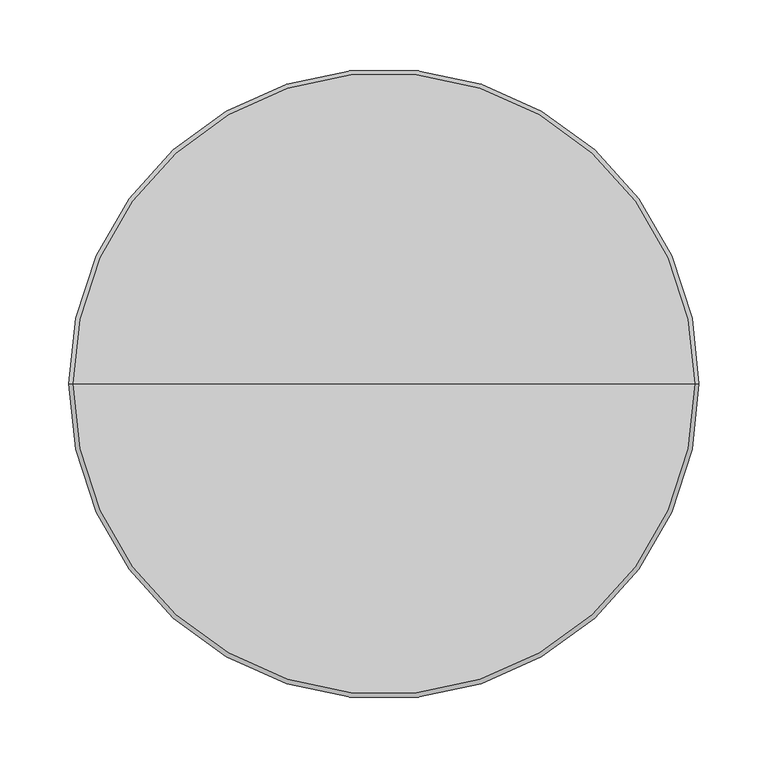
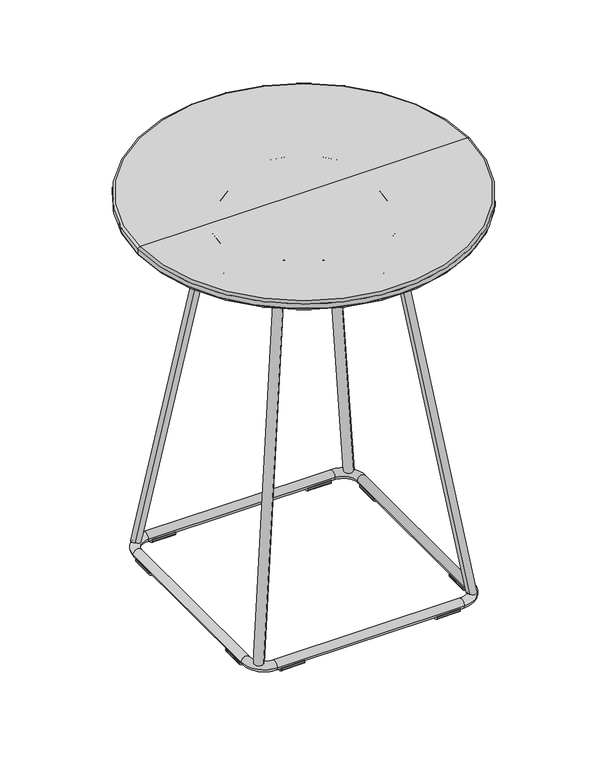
"""IFC4 building model written with IfcOpenShell, lengths in millimetres: furniture geometry, Stance_HC-Tully-Round_Table : TUTF18R22-S."""

from ifc_helpers import new_model, si_unit, point, frame, frame_2d, origin, place, context, project, spatial, polyline, circle_curve, ellipse_curve, trimmed, segment, composite_curve, outline, extrude, source, transform, mapped, element, save
from ifc_brep_helpers import plane_surface, cylinder_surface, revolved_surface, extruded_surface, advanced_brep


def furniture_40e74869(model_context):
    return source(origin(), model_context, "Body", "SolidModel", [
        advanced_brep(
        [(-163.5125, 0.0, 533.4), (163.5125, 0.0, 533.4), (0.0, 0.0, 533.4), (-165.1078573, 0.0, 534.9953573), (165.1078573, 0.0, 534.9953573), (-165.1078573, 0.0, 546.1), (165.1078573, 0.0, 546.1), (0.0, 0.0, 546.1)],
        [
            (0, 1, circle_curve(frame((0.0, 0.0, 533.4), z_axis=(0.0, 0.0, -1.0), x_axis=(1.0, 0.0, 0.0)), 163.5125)),
            (1, 2),
            (2, 0),
            (1, 0, circle_curve(frame((0.0, 0.0, 533.4), z_axis=(0.0, 0.0, -1.0), x_axis=(1.0, 0.0, 0.0)), 163.5125)),
            (3, 4, circle_curve(frame((0.0, 0.0, 534.9953573), z_axis=(0.0, 0.0, -1.0), x_axis=(1.0, 0.0, 0.0)), 165.1078573)),
            (4, 1, circle_curve(frame((163.5125, 0.0, 534.9953573), z_axis=(0.0, 1.0, 0.0), x_axis=(1.0, 0.0, 0.0)), 1.5953573)),
            (0, 3, circle_curve(frame((-163.5125, 0.0, 534.9953573), z_axis=(0.0, 1.0, 0.0), x_axis=(-1.0, 0.0, 0.0)), 1.5953573)),
            (4, 3, circle_curve(frame((0.0, 0.0, 534.9953573), z_axis=(0.0, 0.0, -1.0), x_axis=(1.0, 0.0, 0.0)), 165.1078573)),
            (5, 6, circle_curve(frame((0.0, 0.0, 546.1), z_axis=(0.0, 0.0, -1.0), x_axis=(1.0, 0.0, 0.0)), 165.1078573)),
            (6, 4),
            (3, 5),
            (6, 5, circle_curve(frame((0.0, 0.0, 546.1), z_axis=(0.0, 0.0, -1.0), x_axis=(1.0, 0.0, 0.0)), 165.1078573)),
            (7, 6),
            (5, 7),
        ],
        [
            plane_surface(frame((0.0, 0.0, 533.4), z_axis=(0.0, 0.0, -1.0), x_axis=(1.0, 0.0, 0.0))),
            revolved_surface(trimmed(ellipse_curve(frame((163.5125, 0.0, 534.9953573), z_axis=(0.0, -1.0, 0.0), x_axis=(1.0, 0.0, 0.0)), 1.5953573, 1.5953573), [point((163.5125, 0.0, 533.4))], [point((165.1078573, 0.0, 534.9953573))], True, "CARTESIAN"), (0.0, 0.0, 603.8718071), (0.0, 0.0, 1.0)),
            cylinder_surface(frame((0.0, 0.0, 603.8718071), z_axis=(0.0, 0.0, 1.0), x_axis=(1.0, 0.0, 0.0)), 165.1078573),
            plane_surface(frame((0.0, 0.0, 546.1), z_axis=(0.0, 0.0, 1.0), x_axis=(1.0, 0.0, 0.0))),
        ],
        [
            (0, [[1, 2, 3]]),
            (0, [[4, -3, -2]]),
            (1, [[5, 6, -1, 7]]),
            (1, [[8, -7, -4, -6]]),
            (2, [[9, 10, -5, 11]]),
            (2, [[12, -11, -8, -10]]),
            (3, [[13, -9, 14]]),
            (3, [[-14, -12, -13]]),
        ],
    ),
        advanced_brep(
        [(-225.425, 0.0, 546.1), (225.425, 0.0, 546.1), (0.0, 0.0, 546.1), (-228.6, 0.0, 555.625), (228.6, 0.0, 555.625), (228.6, 0.0, 549.275), (-228.6, 0.0, 549.275), (0.0, 0.0, 558.8), (225.425, 0.0, 558.8), (-225.425, 0.0, 558.8)],
        [
            (0, 1, circle_curve(frame((0.0, 0.0, 546.1), z_axis=(0.0, 0.0, -1.0), x_axis=(1.0, 0.0, 0.0)), 225.425)),
            (1, 2),
            (2, 0),
            (1, 0, circle_curve(frame((0.0, 0.0, 546.1), z_axis=(0.0, 0.0, -1.0), x_axis=(1.0, 0.0, 0.0)), 225.425)),
            (3, 4, circle_curve(frame((0.0, 0.0, 555.625), z_axis=(0.0, 0.0, -1.0), x_axis=(1.0, 0.0, 0.0)), 228.6)),
            (4, 5),
            (5, 6, circle_curve(frame((0.0, 0.0, 549.275), z_axis=(0.0, 0.0, 1.0), x_axis=(1.0, 0.0, 0.0)), 228.6)),
            (6, 3),
            (4, 3, circle_curve(frame((0.0, 0.0, 555.625), z_axis=(0.0, 0.0, -1.0), x_axis=(1.0, 0.0, 0.0)), 228.6)),
            (6, 5, circle_curve(frame((0.0, 0.0, 549.275), z_axis=(0.0, 0.0, 1.0), x_axis=(1.0, 0.0, 0.0)), 228.6)),
            (7, 8),
            (8, 9, circle_curve(frame((0.0, 0.0, 558.8), z_axis=(0.0, 0.0, 1.0), x_axis=(1.0, 0.0, 0.0)), 225.425)),
            (9, 7),
            (9, 8, circle_curve(frame((0.0, 0.0, 558.8), z_axis=(0.0, 0.0, 1.0), x_axis=(1.0, 0.0, 0.0)), 225.425)),
            (8, 4, circle_curve(frame((225.425, 0.0, 555.625), z_axis=(0.0, 1.0, 0.0), x_axis=(1.0, 0.0, 0.0)), 3.175)),
            (3, 9, circle_curve(frame((-225.425, 0.0, 555.625), z_axis=(0.0, 1.0, 0.0), x_axis=(-1.0, 0.0, 0.0)), 3.175)),
            (5, 1, circle_curve(frame((225.425, 0.0, 549.275), z_axis=(0.0, 1.0, 0.0), x_axis=(1.0, 0.0, 0.0)), 3.175)),
            (0, 6, circle_curve(frame((-225.425, 0.0, 549.275), z_axis=(0.0, 1.0, 0.0), x_axis=(-1.0, 0.0, 0.0)), 3.175)),
        ],
        [
            plane_surface(frame((0.0, 0.0, 546.1), z_axis=(0.0, 0.0, -1.0), x_axis=(1.0, 0.0, 0.0))),
            cylinder_surface(frame((0.0, 0.0, 581.631295), z_axis=(0.0, 0.0, 1.0), x_axis=(1.0, 0.0, 0.0)), 228.6),
            plane_surface(frame((0.0, 0.0, 558.8), z_axis=(0.0, 0.0, 1.0), x_axis=(1.0, 0.0, 0.0))),
            revolved_surface(trimmed(ellipse_curve(frame((225.425, 0.0, 555.625), z_axis=(0.0, -1.0, 0.0), x_axis=(1.0, 0.0, 0.0)), 3.175, 3.175), [point((228.6, 0.0, 555.625))], [point((225.425, 0.0, 558.8))], True, "CARTESIAN"), (0.0, 0.0, 581.631295), (0.0, 0.0, 1.0)),
            revolved_surface(trimmed(ellipse_curve(frame((225.425, 0.0, 549.275), z_axis=(0.0, -1.0, 0.0), x_axis=(1.0, 0.0, 0.0)), 3.175, 3.175), [point((225.425, 0.0, 546.1))], [point((228.6, 0.0, 549.275))], True, "CARTESIAN"), (0.0, 0.0, 581.631295), (0.0, 0.0, 1.0)),
        ],
        [
            (0, [[1, 2, 3]]),
            (0, [[4, -3, -2]]),
            (1, [[5, 6, 7, 8]]),
            (1, [[9, -8, 10, -6]]),
            (2, [[11, 12, 13]]),
            (2, [[-13, 14, -11]]),
            (3, [[-12, 15, -5, 16]]),
            (3, [[-14, -16, -9, -15]]),
            (4, [[-7, 17, -1, 18]]),
            (4, [[-10, -18, -4, -17]]),
        ],
    ),
        extrude(outline(composite_curve([segment(trimmed(circle_curve(frame_2d((-148.4350817, 5.3337234)), 0.3897203), [point((-148.7664819, 5.5387985))], [point((-148.0454207, 5.3269218))], False, "CARTESIAN"), True, "CONTINUOUS"), segment(polyline([(-148.0454207, 5.3269218), (-148.0841502, 3.1081125)]), True, "CONTINUOUS"), segment(trimmed(circle_curve(frame_2d((-149.6824444, 3.1360109)), 1.5985377), [point((-148.0841502, 3.1081125))], [point((-148.7010134, 1.8742201))], False, "CARTESIAN"), True, "CONTINUOUS"), segment(trimmed(circle_curve(frame_2d((-154.1650784, 8.8991729)), 8.8997735), [point((-148.7010134, 1.8742201))], [point((-159.6514035, 1.891591))], False, "CARTESIAN"), True, "CONTINUOUS"), segment(trimmed(circle_curve(frame_2d((-158.6952511, 3.1128668)), 1.5510454), [point((-159.6514035, 1.891591))], [point((-160.2460603, 3.0857973))], False, "CARTESIAN"), True, "CONTINUOUS"), segment(polyline([(-160.2460603, 3.0857973), (-160.2853602, 5.3372874)]), True, "CONTINUOUS"), segment(trimmed(circle_curve(frame_2d((-159.9029827, 5.3439618)), 0.3824358), [point((-160.2853602, 5.3372874))], [point((-159.5775522, 5.5448401))], False, "CARTESIAN"), True, "CONTINUOUS"), segment(trimmed(circle_curve(frame_2d((-154.1701501, 8.882664)), 6.3546098), [point((-159.5775522, 5.5448401))], [point((-148.7664819, 5.5387985))], True, "CARTESIAN"), True, "CONTINUOUS")], self_intersect=False)), frame((-123.2212496, 0.0, 0.0), z_axis=(1.0, 0.0, 0.0), x_axis=(0.0, 1.0, 0.0)), (0.0, 0.0, 1.0), 32.2202589),
        extrude(outline(composite_curve([segment(trimmed(circle_curve(frame_2d((-148.4350817, 5.3337234)), 0.3897203), [point((-148.7664819, 5.5387985))], [point((-148.0454207, 5.3269218))], False, "CARTESIAN"), True, "CONTINUOUS"), segment(polyline([(-148.0454207, 5.3269218), (-148.0841502, 3.1081125)]), True, "CONTINUOUS"), segment(trimmed(circle_curve(frame_2d((-149.6824444, 3.1360109)), 1.5985377), [point((-148.0841502, 3.1081125))], [point((-148.7010134, 1.8742201))], False, "CARTESIAN"), True, "CONTINUOUS"), segment(trimmed(circle_curve(frame_2d((-154.1650784, 8.8991729)), 8.8997735), [point((-148.7010134, 1.8742201))], [point((-159.6514035, 1.891591))], False, "CARTESIAN"), True, "CONTINUOUS"), segment(trimmed(circle_curve(frame_2d((-158.6952511, 3.1128668)), 1.5510454), [point((-159.6514035, 1.891591))], [point((-160.2460603, 3.0857973))], False, "CARTESIAN"), True, "CONTINUOUS"), segment(polyline([(-160.2460603, 3.0857973), (-160.2853602, 5.3372874)]), True, "CONTINUOUS"), segment(trimmed(circle_curve(frame_2d((-159.9029827, 5.3439618)), 0.3824358), [point((-160.2853602, 5.3372874))], [point((-159.5775522, 5.5448401))], False, "CARTESIAN"), True, "CONTINUOUS"), segment(trimmed(circle_curve(frame_2d((-154.1701501, 8.882664)), 6.3546098), [point((-159.5775522, 5.5448401))], [point((-148.7664819, 5.5387985))], True, "CARTESIAN"), True, "CONTINUOUS")], self_intersect=False)), frame((91.0531504, 0.0, 0.0), z_axis=(1.0, 0.0, 0.0), x_axis=(0.0, 1.0, 0.0)), (0.0, 0.0, 1.0), 32.2202589),
        extrude(outline(composite_curve([segment(trimmed(circle_curve(frame_2d((154.1701501, 8.882664)), 6.3546098), [point((148.7664819, 5.5387985))], [point((159.5775522, 5.5448401))], True, "CARTESIAN"), True, "CONTINUOUS"), segment(trimmed(circle_curve(frame_2d((159.9029827, 5.3439618)), 0.3824358), [point((159.5775522, 5.5448401))], [point((160.2853602, 5.3372874))], False, "CARTESIAN"), True, "CONTINUOUS"), segment(polyline([(160.2853602, 5.3372874), (160.2460603, 3.0857973)]), True, "CONTINUOUS"), segment(trimmed(circle_curve(frame_2d((158.6952511, 3.1128668)), 1.5510454), [point((160.2460603, 3.0857973))], [point((159.6514035, 1.891591))], False, "CARTESIAN"), True, "CONTINUOUS"), segment(trimmed(circle_curve(frame_2d((154.1650784, 8.8991729)), 8.8997735), [point((159.6514035, 1.891591))], [point((148.7010134, 1.8742201))], False, "CARTESIAN"), True, "CONTINUOUS"), segment(trimmed(circle_curve(frame_2d((149.6824444, 3.1360109)), 1.5985377), [point((148.7010134, 1.8742201))], [point((148.0841502, 3.1081125))], False, "CARTESIAN"), True, "CONTINUOUS"), segment(polyline([(148.0841502, 3.1081125), (148.0454207, 5.3269218)]), True, "CONTINUOUS"), segment(trimmed(circle_curve(frame_2d((148.4350817, 5.3337234)), 0.3897203), [point((148.0454207, 5.3269218))], [point((148.7664819, 5.5387985))], False, "CARTESIAN"), True, "CONTINUOUS")], self_intersect=False)), frame((-123.2212496, 0.0, 0.0), z_axis=(1.0, 0.0, 0.0), x_axis=(0.0, 1.0, 0.0)), (0.0, 0.0, 1.0), 32.2202589),
        extrude(outline(composite_curve([segment(trimmed(circle_curve(frame_2d((154.1701501, 8.882664)), 6.3546098), [point((148.7664819, 5.5387985))], [point((159.5775522, 5.5448401))], True, "CARTESIAN"), True, "CONTINUOUS"), segment(trimmed(circle_curve(frame_2d((159.9029827, 5.3439618)), 0.3824358), [point((159.5775522, 5.5448401))], [point((160.2853602, 5.3372874))], False, "CARTESIAN"), True, "CONTINUOUS"), segment(polyline([(160.2853602, 5.3372874), (160.2460603, 3.0857973)]), True, "CONTINUOUS"), segment(trimmed(circle_curve(frame_2d((158.6952511, 3.1128668)), 1.5510454), [point((160.2460603, 3.0857973))], [point((159.6514035, 1.891591))], False, "CARTESIAN"), True, "CONTINUOUS"), segment(trimmed(circle_curve(frame_2d((154.1650784, 8.8991729)), 8.8997735), [point((159.6514035, 1.891591))], [point((148.7010134, 1.8742201))], False, "CARTESIAN"), True, "CONTINUOUS"), segment(trimmed(circle_curve(frame_2d((149.6824444, 3.1360109)), 1.5985377), [point((148.7010134, 1.8742201))], [point((148.0841502, 3.1081125))], False, "CARTESIAN"), True, "CONTINUOUS"), segment(polyline([(148.0841502, 3.1081125), (148.0454207, 5.3269218)]), True, "CONTINUOUS"), segment(trimmed(circle_curve(frame_2d((148.4350817, 5.3337234)), 0.3897203), [point((148.0454207, 5.3269218))], [point((148.7664819, 5.5387985))], False, "CARTESIAN"), True, "CONTINUOUS")], self_intersect=False)), frame((91.0531504, 0.0, 0.0), z_axis=(1.0, 0.0, 0.0), x_axis=(0.0, 1.0, 0.0)), (0.0, 0.0, 1.0), 32.2202589),
        advanced_brep(
        [(81.5399756, 72.5694431, 523.8961578), (72.5597195, 81.5496992, 523.8961578), (151.0077383, 142.0372058, 13.6617424), (142.0274822, 151.0174619, 13.6617424)],
        [
            (0, 1, ellipse_curve(frame((77.0498475, 77.0595711, 523.8961578), z_axis=(0.0, 0.0, 1.0000000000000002), x_axis=(-0.7071067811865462, 0.7071067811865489, 0.0)), 6.35, 6.1981026)),
            (1, 0, ellipse_curve(frame((77.0498475, 77.0595711, 523.8961578), z_axis=(0.0, 0.0, 1.0000000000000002), x_axis=(-0.7071067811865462, 0.7071067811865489, 0.0)), 6.35, 6.1981026)),
            (2, 3, ellipse_curve(frame((146.5176102, 146.5273338, 13.6617424), z_axis=(0.0, 0.0, -1.0000000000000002), x_axis=(-0.7071067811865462, 0.7071067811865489, 0.0)), 6.35, 6.1981026)),
            (3, 2, ellipse_curve(frame((146.5176102, 146.5273338, 13.6617424), z_axis=(0.0, 0.0, -1.0000000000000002), x_axis=(-0.7071067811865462, 0.7071067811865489, 0.0)), 6.35, 6.1981026)),
            (3, 1),
            (0, 2),
        ],
        [
            plane_surface(frame((77.0498475, 77.0595711, 523.8961578), z_axis=(0.0, 0.0, 1.0), x_axis=(0.7071067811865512, 0.7071067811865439, 0.0))),
            plane_surface(frame((146.5176102, 146.5273338, 13.6617424), z_axis=(0.0, 0.0, -1.0), x_axis=(0.7071067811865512, 0.7071067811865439, 0.0))),
            extruded_surface(trimmed(ellipse_curve(frame((146.5176102, 146.5273338, 13.6617424), z_axis=(0.0, 0.0, 1.0000000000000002), x_axis=(-0.7071067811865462, 0.7071067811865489, 0.0)), 6.35, 6.1981026), [point((151.0077383, 142.0372058, 13.6617424))], [point((142.0274822, 151.0174619, 13.6617424))], True, "CARTESIAN"), (-69.46776270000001, -69.46776270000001, 510.2344154), 519.6062920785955),
            extruded_surface(trimmed(ellipse_curve(frame((146.5176102, 146.5273338, 13.6617424), z_axis=(0.0, 0.0, 1.0000000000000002), x_axis=(-0.7071067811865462, 0.7071067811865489, 0.0)), 6.35, 6.1981026), [point((142.0274822, 151.0174619, 13.6617424))], [point((151.0077383, 142.0372058, 13.6617424))], True, "CARTESIAN"), (-69.46776270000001, -69.46776270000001, 510.2344154), 519.6062920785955),
        ],
        [
            (0, [[1, 2]]),
            (1, [[3, 4]]),
            (2, [[-4, 5, -1, 6]]),
            (3, [[-3, -6, -2, -5]]),
        ],
    ),
        advanced_brep(
        [(-81.5399756, 72.5694431, 523.8961578), (-72.5597195, 81.5496992, 523.8961578), (-151.0077383, 142.0372058, 13.6617424), (-142.0274822, 151.0174619, 13.6617424)],
        [
            (0, 1, ellipse_curve(frame((-77.0498475, 77.0595711, 523.8961578), z_axis=(0.0, 0.0, 1.0000000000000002), x_axis=(0.7071067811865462, 0.7071067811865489, 0.0)), 6.35, 6.1981026)),
            (1, 0, ellipse_curve(frame((-77.0498475, 77.0595711, 523.8961578), z_axis=(0.0, 0.0, 1.0000000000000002), x_axis=(0.7071067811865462, 0.7071067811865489, 0.0)), 6.35, 6.1981026)),
            (2, 3, ellipse_curve(frame((-146.5176102, 146.5273338, 13.6617424), z_axis=(0.0, 0.0, -1.0000000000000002), x_axis=(0.7071067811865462, 0.7071067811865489, 0.0)), 6.35, 6.1981026)),
            (3, 2, ellipse_curve(frame((-146.5176102, 146.5273338, 13.6617424), z_axis=(0.0, 0.0, -1.0000000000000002), x_axis=(0.7071067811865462, 0.7071067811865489, 0.0)), 6.35, 6.1981026)),
            (2, 0),
            (1, 3),
        ],
        [
            plane_surface(frame((-77.0498475, 77.0595711, 523.8961578), z_axis=(0.0, 0.0, 1.0), x_axis=(0.7071067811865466, -0.7071067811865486, 0.0))),
            plane_surface(frame((-146.5176102, 146.5273338, 13.6617424), z_axis=(0.0, 0.0, -1.0), x_axis=(0.7071067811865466, -0.7071067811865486, 0.0))),
            extruded_surface(trimmed(ellipse_curve(frame((-146.5176102, 146.5273338, 13.6617424), z_axis=(0.0, 0.0, 1.0000000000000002), x_axis=(0.7071067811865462, 0.7071067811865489, 0.0)), 6.35, 6.1981026), [point((-142.0274822, 151.0174619, 13.6617424))], [point((-151.0077383, 142.0372058, 13.6617424))], True, "CARTESIAN"), (69.46776270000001, -69.46776270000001, 510.2344154), 519.6062920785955),
            extruded_surface(trimmed(ellipse_curve(frame((-146.5176102, 146.5273338, 13.6617424), z_axis=(0.0, 0.0, 1.0000000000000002), x_axis=(0.7071067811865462, 0.7071067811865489, 0.0)), 6.35, 6.1981026), [point((-151.0077383, 142.0372058, 13.6617424))], [point((-142.0274822, 151.0174619, 13.6617424))], True, "CARTESIAN"), (69.46776270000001, -69.46776270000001, 510.2344154), 519.6062920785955),
        ],
        [
            (0, [[1, 2]]),
            (1, [[3, 4]]),
            (2, [[-3, 5, -2, 6]]),
            (3, [[-4, -6, -1, -5]]),
        ],
    ),
        advanced_brep(
        [(81.5399756, -72.5694431, 523.8961578), (72.5597195, -81.5496992, 523.8961578), (151.0077383, -142.0372058, 13.6617424), (142.0274822, -151.0174619, 13.6617424)],
        [
            (0, 1, ellipse_curve(frame((77.0498475, -77.0595711, 523.8961578), z_axis=(0.0, 0.0, 1.0000000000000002), x_axis=(-0.7071067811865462, -0.7071067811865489, 0.0)), 6.35, 6.1981026)),
            (1, 0, ellipse_curve(frame((77.0498475, -77.0595711, 523.8961578), z_axis=(0.0, 0.0, 1.0000000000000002), x_axis=(-0.7071067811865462, -0.7071067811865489, 0.0)), 6.35, 6.1981026)),
            (2, 3, ellipse_curve(frame((146.5176102, -146.5273338, 13.6617424), z_axis=(0.0, 0.0, -1.0000000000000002), x_axis=(-0.7071067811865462, -0.7071067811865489, 0.0)), 6.35, 6.1981026)),
            (3, 2, ellipse_curve(frame((146.5176102, -146.5273338, 13.6617424), z_axis=(0.0, 0.0, -1.0000000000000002), x_axis=(-0.7071067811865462, -0.7071067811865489, 0.0)), 6.35, 6.1981026)),
            (2, 0),
            (1, 3),
        ],
        [
            plane_surface(frame((77.0498475, -77.0595711, 523.8961578), z_axis=(0.0, 0.0, 1.0), x_axis=(-0.7071067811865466, 0.7071067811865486, 0.0))),
            plane_surface(frame((146.5176102, -146.5273338, 13.6617424), z_axis=(0.0, 0.0, -1.0), x_axis=(-0.7071067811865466, 0.7071067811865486, 0.0))),
            extruded_surface(trimmed(ellipse_curve(frame((146.5176102, -146.5273338, 13.6617424), z_axis=(0.0, 0.0, 1.0000000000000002), x_axis=(-0.7071067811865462, -0.7071067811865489, 0.0)), 6.35, 6.1981026), [point((142.0274822, -151.0174619, 13.6617424))], [point((151.0077383, -142.0372058, 13.6617424))], True, "CARTESIAN"), (-69.46776270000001, 69.46776270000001, 510.2344154), 519.6062920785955),
            extruded_surface(trimmed(ellipse_curve(frame((146.5176102, -146.5273338, 13.6617424), z_axis=(0.0, 0.0, 1.0000000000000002), x_axis=(-0.7071067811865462, -0.7071067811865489, 0.0)), 6.35, 6.1981026), [point((151.0077383, -142.0372058, 13.6617424))], [point((142.0274822, -151.0174619, 13.6617424))], True, "CARTESIAN"), (-69.46776270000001, 69.46776270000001, 510.2344154), 519.6062920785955),
        ],
        [
            (0, [[1, 2]]),
            (1, [[3, 4]]),
            (2, [[-3, 5, -2, 6]]),
            (3, [[-4, -6, -1, -5]]),
        ],
    ),
        advanced_brep(
        [(-81.5399756, -72.5694431, 523.8961578), (-72.5597195, -81.5496992, 523.8961578), (-151.0077383, -142.0372058, 13.6617424), (-142.0274822, -151.0174619, 13.6617424)],
        [
            (0, 1, ellipse_curve(frame((-77.0498475, -77.0595711, 523.8961578), z_axis=(0.0, 0.0, 1.0000000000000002), x_axis=(0.7071067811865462, -0.7071067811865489, 0.0)), 6.35, 6.1981026)),
            (1, 0, ellipse_curve(frame((-77.0498475, -77.0595711, 523.8961578), z_axis=(0.0, 0.0, 1.0000000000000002), x_axis=(0.7071067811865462, -0.7071067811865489, 0.0)), 6.35, 6.1981026)),
            (2, 3, ellipse_curve(frame((-146.5176102, -146.5273338, 13.6617424), z_axis=(0.0, 0.0, -1.0000000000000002), x_axis=(0.7071067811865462, -0.7071067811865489, 0.0)), 6.35, 6.1981026)),
            (3, 2, ellipse_curve(frame((-146.5176102, -146.5273338, 13.6617424), z_axis=(0.0, 0.0, -1.0000000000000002), x_axis=(0.7071067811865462, -0.7071067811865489, 0.0)), 6.35, 6.1981026)),
            (3, 1),
            (0, 2),
        ],
        [
            plane_surface(frame((-77.0498475, -77.0595711, 523.8961578), z_axis=(0.0, 0.0, 1.0), x_axis=(-0.7071067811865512, -0.7071067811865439, 0.0))),
            plane_surface(frame((-146.5176102, -146.5273338, 13.6617424), z_axis=(0.0, 0.0, -1.0), x_axis=(-0.7071067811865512, -0.7071067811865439, 0.0))),
            extruded_surface(trimmed(ellipse_curve(frame((-146.5176102, -146.5273338, 13.6617424), z_axis=(0.0, 0.0, 1.0000000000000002), x_axis=(0.7071067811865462, -0.7071067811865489, 0.0)), 6.35, 6.1981026), [point((-151.0077383, -142.0372058, 13.6617424))], [point((-142.0274822, -151.0174619, 13.6617424))], True, "CARTESIAN"), (69.46776270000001, 69.46776270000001, 510.2344154), 519.6062920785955),
            extruded_surface(trimmed(ellipse_curve(frame((-146.5176102, -146.5273338, 13.6617424), z_axis=(0.0, 0.0, 1.0000000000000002), x_axis=(0.7071067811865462, -0.7071067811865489, 0.0)), 6.35, 6.1981026), [point((-142.0274822, -151.0174619, 13.6617424))], [point((-151.0077383, -142.0372058, 13.6617424))], True, "CARTESIAN"), (69.46776270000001, 69.46776270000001, 510.2344154), 519.6062920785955),
        ],
        [
            (0, [[1, 2]]),
            (1, [[3, 4]]),
            (2, [[-4, 5, -1, 6]]),
            (3, [[-3, -6, -2, -5]]),
        ],
    ),
        extrude(outline(composite_curve([segment(trimmed(circle_curve(frame_2d((-82.55, 0.0)), 9.525), [point((-82.55, 9.525))], [point((-82.55, -9.525))], False, "CARTESIAN"), True, "CONTINUOUS"), segment(polyline([(-82.55, -9.525), (-104.775, -9.525), (-104.775, 9.525), (-82.55, 9.525)]), True, "CONTINUOUS")], self_intersect=False)), frame((0.0, 0.0, 530.225), z_axis=(0.0, 0.0, 1.0), x_axis=(1.0, 0.0, 0.0)), (0.0, 0.0, 1.0), 3.175),
        extrude(outline(composite_curve([segment(polyline([(9.525, 104.775), (9.525, 82.55)]), True, "CONTINUOUS"), segment(trimmed(circle_curve(frame_2d((0.0, 82.55)), 9.525), [point((9.525, 82.55))], [point((-9.525, 82.55))], False, "CARTESIAN"), True, "CONTINUOUS"), segment(polyline([(-9.525, 82.55), (-9.525, 104.775), (9.525, 104.775)]), True, "CONTINUOUS")], self_intersect=False)), frame((0.0, 0.0, 530.225), z_axis=(0.0, 0.0, 1.0), x_axis=(1.0, 0.0, 0.0)), (0.0, 0.0, 1.0), 3.175),
        extrude(outline(composite_curve([segment(polyline([(104.775, 9.525), (104.775, -9.525), (82.55, -9.525)]), True, "CONTINUOUS"), segment(trimmed(circle_curve(frame_2d((82.55, 0.0)), 9.525), [point((82.55, -9.525))], [point((82.55, 9.525))], False, "CARTESIAN"), True, "CONTINUOUS"), segment(polyline([(82.55, 9.525), (104.775, 9.525)]), True, "CONTINUOUS")], self_intersect=False)), frame((0.0, 0.0, 530.225), z_axis=(0.0, 0.0, 1.0), x_axis=(1.0, 0.0, 0.0)), (0.0, 0.0, 1.0), 3.175),
        extrude(outline(composite_curve([segment(polyline([(9.525, -104.775), (-9.525, -104.775), (-9.525, -82.55)]), True, "CONTINUOUS"), segment(trimmed(circle_curve(frame_2d((0.0, -82.55)), 9.525), [point((-9.525, -82.55))], [point((9.525, -82.55))], False, "CARTESIAN"), True, "CONTINUOUS"), segment(polyline([(9.525, -82.55), (9.525, -104.775)]), True, "CONTINUOUS")], self_intersect=False)), frame((0.0, 0.0, 530.225), z_axis=(0.0, 0.0, 1.0), x_axis=(1.0, 0.0, 0.0)), (0.0, 0.0, 1.0), 3.175),
        advanced_brep(
        [(103.1973977, 0.0, 527.05), (-103.1973977, 0.0, 527.05), (-115.8973977, 0.0, 527.05), (115.8973977, 0.0, 527.05)],
        [
            (0, 1, circle_curve(frame((0.0, 0.0, 527.05), z_axis=(0.0, 0.0, -1.0), x_axis=(-1.0, 0.0, 0.0)), 103.1973977)),
            (1, 2, circle_curve(frame((-109.5473977, 0.0, 527.05), z_axis=(0.0, -1.0, 0.0), x_axis=(1.0, 0.0, 0.0)), 6.35)),
            (2, 3, circle_curve(frame((0.0, 0.0, 527.05), z_axis=(0.0, 0.0, 1.0), x_axis=(-1.0, 0.0, 0.0)), 115.8973977)),
            (3, 0, circle_curve(frame((109.5473977, 0.0, 527.05), z_axis=(0.0, -1.0, 0.0), x_axis=(-1.0, 0.0, 0.0)), 6.35)),
            (2, 1, circle_curve(frame((-109.5473977, 0.0, 527.05), z_axis=(0.0, -1.0, 0.0), x_axis=(1.0, 0.0, 0.0)), 6.35)),
            (0, 3, circle_curve(frame((109.5473977, 0.0, 527.05), z_axis=(0.0, -1.0, 0.0), x_axis=(-1.0, 0.0, 0.0)), 6.35)),
            (1, 0, circle_curve(frame((0.0, 0.0, 527.05), z_axis=(0.0, 0.0, -1.0), x_axis=(1.0, 0.0, 0.0)), 103.1973977)),
            (3, 2, circle_curve(frame((0.0, 0.0, 527.05), z_axis=(0.0, 0.0, 1.0), x_axis=(1.0, 0.0, 0.0)), 115.8973977)),
        ],
        [
            revolved_surface(trimmed(ellipse_curve(frame((-109.5473977, 0.0, 527.05), z_axis=(0.0, 1.0, 0.0), x_axis=(1.0, 0.0, 0.0)), 6.35, 6.35), [point((-115.8973977, 0.0, 527.05))], [point((-103.1973977, 0.0, 527.05))], True, "CARTESIAN"), (0.0, 0.0, 0.0), (0.0, 0.0, 1.0)),
            revolved_surface(trimmed(ellipse_curve(frame((-109.5473977, 0.0, 527.05), z_axis=(0.0, 1.0, 0.0), x_axis=(1.0, 0.0, 0.0)), 6.35, 6.35), [point((-103.1973977, 0.0, 527.05))], [point((-115.8973977, 0.0, 527.05))], True, "CARTESIAN"), (0.0, 0.0, 0.0), (0.0, 0.0, 1.0)),
            revolved_surface(trimmed(ellipse_curve(frame((109.5473977, 0.0, 527.05), z_axis=(0.0, -1.0, 0.0), x_axis=(-1.0, 0.0, 0.0)), 6.35, 6.35), [point((115.8973977, 0.0, 527.05))], [point((103.1973977, 0.0, 527.05))], True, "CARTESIAN"), (0.0, 0.0, 0.0), (0.0, 0.0, 1.0)),
            revolved_surface(trimmed(ellipse_curve(frame((109.5473977, 0.0, 527.05), z_axis=(0.0, -1.0, 0.0), x_axis=(-1.0, 0.0, 0.0)), 6.35, 6.35), [point((103.1973977, 0.0, 527.05))], [point((115.8973977, 0.0, 527.05))], True, "CARTESIAN"), (0.0, 0.0, 0.0), (0.0, 0.0, 1.0)),
        ],
        [
            (0, [[1, 2, 3, 4]]),
            (1, [[-3, 5, -1, 6]]),
            (2, [[7, -4, 8, -2]]),
            (3, [[-8, -6, -7, -5]]),
        ],
    ),
        extrude(outline(composite_curve([segment(trimmed(circle_curve(frame_2d((5.3337234, 148.4350817)), 0.3897203), [point((5.5387985, 148.7664819))], [point((5.3269218, 148.0454207))], False, "CARTESIAN"), True, "CONTINUOUS"), segment(polyline([(5.3269218, 148.0454207), (3.1081125, 148.0841502)]), True, "CONTINUOUS"), segment(trimmed(circle_curve(frame_2d((3.1360109, 149.6824444)), 1.5985377), [point((3.1081125, 148.0841502))], [point((1.8742201, 148.7010134))], False, "CARTESIAN"), True, "CONTINUOUS"), segment(trimmed(circle_curve(frame_2d((8.8991729, 154.1650784)), 8.8997735), [point((1.8742201, 148.7010134))], [point((1.891591, 159.6514035))], False, "CARTESIAN"), True, "CONTINUOUS"), segment(trimmed(circle_curve(frame_2d((3.1128668, 158.6952511)), 1.5510454), [point((1.891591, 159.6514035))], [point((3.0857973, 160.2460603))], False, "CARTESIAN"), True, "CONTINUOUS"), segment(polyline([(3.0857973, 160.2460603), (5.3372874, 160.2853602)]), True, "CONTINUOUS"), segment(trimmed(circle_curve(frame_2d((5.3439618, 159.9029827)), 0.3824358), [point((5.3372874, 160.2853602))], [point((5.5448401, 159.5775522))], False, "CARTESIAN"), True, "CONTINUOUS"), segment(trimmed(circle_curve(frame_2d((8.882664, 154.1701501)), 6.3546098), [point((5.5448401, 159.5775522))], [point((5.5387985, 148.7664819))], True, "CARTESIAN"), True, "CONTINUOUS")], self_intersect=False)), frame((0.0, -123.2212496, 0.0), z_axis=(0.0, 1.0, 0.0), x_axis=(0.0, 0.0, 1.0)), (0.0, 0.0, 1.0), 32.2202589),
        extrude(outline(composite_curve([segment(trimmed(circle_curve(frame_2d((5.3337234, 148.4350817)), 0.3897203), [point((5.5387985, 148.7664819))], [point((5.3269218, 148.0454207))], False, "CARTESIAN"), True, "CONTINUOUS"), segment(polyline([(5.3269218, 148.0454207), (3.1081125, 148.0841502)]), True, "CONTINUOUS"), segment(trimmed(circle_curve(frame_2d((3.1360109, 149.6824444)), 1.5985377), [point((3.1081125, 148.0841502))], [point((1.8742201, 148.7010134))], False, "CARTESIAN"), True, "CONTINUOUS"), segment(trimmed(circle_curve(frame_2d((8.8991729, 154.1650784)), 8.8997735), [point((1.8742201, 148.7010134))], [point((1.891591, 159.6514035))], False, "CARTESIAN"), True, "CONTINUOUS"), segment(trimmed(circle_curve(frame_2d((3.1128668, 158.6952511)), 1.5510454), [point((1.891591, 159.6514035))], [point((3.0857973, 160.2460603))], False, "CARTESIAN"), True, "CONTINUOUS"), segment(polyline([(3.0857973, 160.2460603), (5.3372874, 160.2853602)]), True, "CONTINUOUS"), segment(trimmed(circle_curve(frame_2d((5.3439618, 159.9029827)), 0.3824358), [point((5.3372874, 160.2853602))], [point((5.5448401, 159.5775522))], False, "CARTESIAN"), True, "CONTINUOUS"), segment(trimmed(circle_curve(frame_2d((8.882664, 154.1701501)), 6.3546098), [point((5.5448401, 159.5775522))], [point((5.5387985, 148.7664819))], True, "CARTESIAN"), True, "CONTINUOUS")], self_intersect=False)), frame((0.0, 91.0531504, 0.0), z_axis=(0.0, 1.0, 0.0), x_axis=(0.0, 0.0, 1.0)), (0.0, 0.0, 1.0), 32.2202589),
        extrude(outline(composite_curve([segment(trimmed(circle_curve(frame_2d((8.882664, -154.1701501)), 6.3546098), [point((5.5387985, -148.7664819))], [point((5.5448401, -159.5775522))], True, "CARTESIAN"), True, "CONTINUOUS"), segment(trimmed(circle_curve(frame_2d((5.3439618, -159.9029827)), 0.3824358), [point((5.5448401, -159.5775522))], [point((5.3372874, -160.2853602))], False, "CARTESIAN"), True, "CONTINUOUS"), segment(polyline([(5.3372874, -160.2853602), (3.0857973, -160.2460603)]), True, "CONTINUOUS"), segment(trimmed(circle_curve(frame_2d((3.1128668, -158.6952511)), 1.5510454), [point((3.0857973, -160.2460603))], [point((1.891591, -159.6514035))], False, "CARTESIAN"), True, "CONTINUOUS"), segment(trimmed(circle_curve(frame_2d((8.8991729, -154.1650784)), 8.8997735), [point((1.891591, -159.6514035))], [point((1.8742201, -148.7010134))], False, "CARTESIAN"), True, "CONTINUOUS"), segment(trimmed(circle_curve(frame_2d((3.1360109, -149.6824444)), 1.5985377), [point((1.8742201, -148.7010134))], [point((3.1081125, -148.0841502))], False, "CARTESIAN"), True, "CONTINUOUS"), segment(polyline([(3.1081125, -148.0841502), (5.3269218, -148.0454207)]), True, "CONTINUOUS"), segment(trimmed(circle_curve(frame_2d((5.3337234, -148.4350817)), 0.3897203), [point((5.3269218, -148.0454207))], [point((5.5387985, -148.7664819))], False, "CARTESIAN"), True, "CONTINUOUS")], self_intersect=False)), frame((0.0, -123.2212496, 0.0), z_axis=(0.0, 1.0, 0.0), x_axis=(0.0, 0.0, 1.0)), (0.0, 0.0, 1.0), 32.2202589),
        extrude(outline(composite_curve([segment(trimmed(circle_curve(frame_2d((8.882664, -154.1701501)), 6.3546098), [point((5.5387985, -148.7664819))], [point((5.5448401, -159.5775522))], True, "CARTESIAN"), True, "CONTINUOUS"), segment(trimmed(circle_curve(frame_2d((5.3439618, -159.9029827)), 0.3824358), [point((5.5448401, -159.5775522))], [point((5.3372874, -160.2853602))], False, "CARTESIAN"), True, "CONTINUOUS"), segment(polyline([(5.3372874, -160.2853602), (3.0857973, -160.2460603)]), True, "CONTINUOUS"), segment(trimmed(circle_curve(frame_2d((3.1128668, -158.6952511)), 1.5510454), [point((3.0857973, -160.2460603))], [point((1.891591, -159.6514035))], False, "CARTESIAN"), True, "CONTINUOUS"), segment(trimmed(circle_curve(frame_2d((8.8991729, -154.1650784)), 8.8997735), [point((1.891591, -159.6514035))], [point((1.8742201, -148.7010134))], False, "CARTESIAN"), True, "CONTINUOUS"), segment(trimmed(circle_curve(frame_2d((3.1360109, -149.6824444)), 1.5985377), [point((1.8742201, -148.7010134))], [point((3.1081125, -148.0841502))], False, "CARTESIAN"), True, "CONTINUOUS"), segment(polyline([(3.1081125, -148.0841502), (5.3269218, -148.0454207)]), True, "CONTINUOUS"), segment(trimmed(circle_curve(frame_2d((5.3337234, -148.4350817)), 0.3897203), [point((5.3269218, -148.0454207))], [point((5.5387985, -148.7664819))], False, "CARTESIAN"), True, "CONTINUOUS")], self_intersect=False)), frame((0.0, 91.0531504, 0.0), z_axis=(0.0, 1.0, 0.0), x_axis=(0.0, 0.0, 1.0)), (0.0, 0.0, 1.0), 32.2202589),
        advanced_brep(
        [(160.51531, 128.7802999, 8.8793349), (128.76531, 160.5302999, 8.8793349), (128.76531, 147.8302999, 8.8793349), (147.81531, 128.7802999, 8.8793349), (147.81531, -128.7652923, 8.8793349), (160.51531, -128.7652923, 8.8793349), (128.76531, -160.5152923, 8.8793349), (128.76531, -147.8152923, 8.8793349), (-128.7438636, -147.8152923, 8.8793349), (-128.7438636, -160.5152923, 8.8793349), (-160.4938636, -128.7652923, 8.8793349), (-147.7938636, -128.7652923, 8.8793349), (-147.7938636, 128.7802999, 8.8793349), (-160.4938636, 128.7802999, 8.8793349), (-128.7438636, 160.5302999, 8.8793349), (-128.7438636, 147.8302999, 8.8793349)],
        [
            (0, 1, circle_curve(frame((128.76531, 128.7802999, 8.8793349), z_axis=(0.0, 0.0, 1.0), x_axis=(0.0, 1.0, 0.0)), 31.75)),
            (1, 2, circle_curve(frame((128.76531, 154.1802999, 8.8793349), z_axis=(1.0, 0.0, 0.0), x_axis=(0.0, 1.0, 0.0)), 6.35)),
            (2, 3, circle_curve(frame((128.76531, 128.7802999, 8.8793349), z_axis=(0.0, 0.0, -1.0), x_axis=(0.0, 1.0, 0.0)), 19.05)),
            (3, 0, circle_curve(frame((154.16531, 128.7802999, 8.8793349), z_axis=(0.0, 1.0, 0.0), x_axis=(1.0, 0.0, 0.0)), 6.35)),
            (2, 1, circle_curve(frame((128.76531, 154.1802999, 8.8793349), z_axis=(1.0, 0.0, 0.0), x_axis=(0.0, 1.0, 0.0)), 6.35)),
            (0, 3, circle_curve(frame((154.16531, 128.7802999, 8.8793349), z_axis=(0.0, 1.0, 0.0), x_axis=(1.0, 0.0, 0.0)), 6.35)),
            (3, 4),
            (4, 5, circle_curve(frame((154.16531, -128.7652923, 8.8793349), z_axis=(0.0, 1.0, 0.0), x_axis=(1.0, 0.0, 0.0)), 6.35)),
            (5, 0),
            (5, 4, circle_curve(frame((154.16531, -128.7652923, 8.8793349), z_axis=(0.0, 1.0, 0.0), x_axis=(1.0, 0.0, 0.0)), 6.35)),
            (6, 5, circle_curve(frame((128.76531, -128.7652923, 8.8793349), z_axis=(0.0, 0.0, 1.0), x_axis=(1.0, 0.0, 0.0)), 31.75)),
            (4, 7, circle_curve(frame((128.76531, -128.7652923, 8.8793349), z_axis=(0.0, 0.0, -1.0), x_axis=(1.0, 0.0, 0.0)), 19.05)),
            (7, 6, circle_curve(frame((128.76531, -154.1652923, 8.8793349), z_axis=(1.0, 0.0, 0.0), x_axis=(0.0, -1.0, 0.0)), 6.35)),
            (6, 7, circle_curve(frame((128.76531, -154.1652923, 8.8793349), z_axis=(1.0, 0.0, 0.0), x_axis=(0.0, -1.0, 0.0)), 6.35)),
            (7, 8),
            (8, 9, circle_curve(frame((-128.7438636, -154.1652923, 8.8793349), z_axis=(1.0, 0.0, 0.0), x_axis=(0.0, -1.0, 0.0)), 6.35)),
            (9, 6),
            (9, 8, circle_curve(frame((-128.7438636, -154.1652923, 8.8793349), z_axis=(1.0, 0.0, 0.0), x_axis=(0.0, -1.0, 0.0)), 6.35)),
            (10, 9, circle_curve(frame((-128.7438636, -128.7652923, 8.8793349), z_axis=(0.0, 0.0, 1.0), x_axis=(0.0, -1.0, 0.0)), 31.75)),
            (8, 11, circle_curve(frame((-128.7438636, -128.7652923, 8.8793349), z_axis=(0.0, 0.0, -1.0), x_axis=(0.0, -1.0, 0.0)), 19.05)),
            (11, 10, circle_curve(frame((-154.1438636, -128.7652923, 8.8793349), z_axis=(0.0, -1.0, 0.0), x_axis=(-1.0, 0.0, 0.0)), 6.35)),
            (10, 11, circle_curve(frame((-154.1438636, -128.7652923, 8.8793349), z_axis=(0.0, -1.0, 0.0), x_axis=(-1.0, 0.0, 0.0)), 6.35)),
            (11, 12),
            (12, 13, circle_curve(frame((-154.1438636, 128.7802999, 8.8793349), z_axis=(0.0, -1.0, 0.0), x_axis=(-1.0, 0.0, 0.0)), 6.35)),
            (13, 10),
            (13, 12, circle_curve(frame((-154.1438636, 128.7802999, 8.8793349), z_axis=(0.0, -1.0, 0.0), x_axis=(-1.0, 0.0, 0.0)), 6.35)),
            (14, 13, circle_curve(frame((-128.7438636, 128.7802999, 8.8793349), z_axis=(0.0, 0.0, 1.0), x_axis=(-1.0, 0.0, 0.0)), 31.75)),
            (12, 15, circle_curve(frame((-128.7438636, 128.7802999, 8.8793349), z_axis=(0.0, 0.0, -1.0), x_axis=(-1.0, 0.0, 0.0)), 19.05)),
            (15, 14, circle_curve(frame((-128.7438636, 154.1802999, 8.8793349), z_axis=(-1.0, 0.0, 0.0), x_axis=(0.0, 1.0, 0.0)), 6.35)),
            (14, 15, circle_curve(frame((-128.7438636, 154.1802999, 8.8793349), z_axis=(-1.0, 0.0, 0.0), x_axis=(0.0, 1.0, 0.0)), 6.35)),
            (15, 2),
            (1, 14),
        ],
        [
            revolved_surface(trimmed(ellipse_curve(frame((128.76531, 154.1802999, 8.8793349), z_axis=(-1.0, 0.0, 0.0), x_axis=(0.0, 1.0, 0.0)), 6.35, 6.35), [point((128.76531, 147.8302999, 8.8793349))], [point((128.76531, 160.5302999, 8.8793349))], True, "CARTESIAN"), (128.76531, 128.7802999, 0.0), (0.0, 0.0, -1.0)),
            revolved_surface(trimmed(ellipse_curve(frame((128.76531, 154.1802999, 8.8793349), z_axis=(-1.0, 0.0, 0.0), x_axis=(0.0, 1.0, 0.0)), 6.35, 6.35), [point((128.76531, 160.5302999, 8.8793349))], [point((128.76531, 147.8302999, 8.8793349))], True, "CARTESIAN"), (128.76531, 128.7802999, 0.0), (0.0, 0.0, -1.0)),
            cylinder_surface(frame((154.16531, 128.7802999, 8.8793349), z_axis=(0.0, 1.0, 0.0), x_axis=(1.0, 0.0, 0.0)), 6.35),
            revolved_surface(trimmed(ellipse_curve(frame((154.16531, -128.7652923, 8.8793349), z_axis=(0.0, 1.0, 0.0), x_axis=(1.0, 0.0, 0.0)), 6.35, 6.35), [point((147.81531, -128.7652923, 8.8793349))], [point((160.51531, -128.7652923, 8.8793349))], True, "CARTESIAN"), (128.76531, -128.7652923, 0.0), (0.0, 0.0, -1.0)),
            revolved_surface(trimmed(ellipse_curve(frame((154.16531, -128.7652923, 8.8793349), z_axis=(0.0, 1.0, 0.0), x_axis=(1.0, 0.0, 0.0)), 6.35, 6.35), [point((160.51531, -128.7652923, 8.8793349))], [point((147.81531, -128.7652923, 8.8793349))], True, "CARTESIAN"), (128.76531, -128.7652923, 0.0), (0.0, 0.0, -1.0)),
            cylinder_surface(frame((128.76531, -154.1652923, 8.8793349), z_axis=(1.0, 0.0, 0.0), x_axis=(0.0, -1.0, 0.0)), 6.35),
            revolved_surface(trimmed(ellipse_curve(frame((-128.7438636, -154.1652923, 8.8793349), z_axis=(1.0, 0.0, 0.0), x_axis=(0.0, -1.0, 0.0)), 6.35, 6.35), [point((-128.7438636, -147.8152923, 8.8793349))], [point((-128.7438636, -160.5152923, 8.8793349))], True, "CARTESIAN"), (-128.7438636, -128.7652923, 0.0), (0.0, 0.0, -1.0)),
            revolved_surface(trimmed(ellipse_curve(frame((-128.7438636, -154.1652923, 8.8793349), z_axis=(1.0, 0.0, 0.0), x_axis=(0.0, -1.0, 0.0)), 6.35, 6.35), [point((-128.7438636, -160.5152923, 8.8793349))], [point((-128.7438636, -147.8152923, 8.8793349))], True, "CARTESIAN"), (-128.7438636, -128.7652923, 0.0), (0.0, 0.0, -1.0)),
            cylinder_surface(frame((-154.1438636, -128.7652923, 8.8793349), z_axis=(0.0, -1.0, 0.0), x_axis=(-1.0, 0.0, 0.0)), 6.35),
            revolved_surface(trimmed(ellipse_curve(frame((-154.1438636, 128.7802999, 8.8793349), z_axis=(0.0, -1.0, 0.0), x_axis=(-1.0, 0.0, 0.0)), 6.35, 6.35), [point((-147.7938636, 128.7802999, 8.8793349))], [point((-160.4938636, 128.7802999, 8.8793349))], True, "CARTESIAN"), (-128.7438636, 128.7802999, 0.0), (0.0, 0.0, -1.0)),
            revolved_surface(trimmed(ellipse_curve(frame((-154.1438636, 128.7802999, 8.8793349), z_axis=(0.0, -1.0, 0.0), x_axis=(-1.0, 0.0, 0.0)), 6.35, 6.35), [point((-160.4938636, 128.7802999, 8.8793349))], [point((-147.7938636, 128.7802999, 8.8793349))], True, "CARTESIAN"), (-128.7438636, 128.7802999, 0.0), (0.0, 0.0, -1.0)),
            cylinder_surface(frame((-128.7438636, 154.1802999, 8.8793349), z_axis=(-1.0, 0.0, 0.0), x_axis=(0.0, 1.0, 0.0)), 6.35),
        ],
        [
            (0, [[1, 2, 3, 4]]),
            (1, [[-3, 5, -1, 6]]),
            (2, [[-4, 7, 8, 9]]),
            (2, [[-6, -9, 10, -7]]),
            (3, [[11, -8, 12, 13]]),
            (4, [[-12, -10, -11, 14]]),
            (5, [[-13, 15, 16, 17]]),
            (5, [[-14, -17, 18, -15]]),
            (6, [[19, -16, 20, 21]]),
            (7, [[-20, -18, -19, 22]]),
            (8, [[-21, 23, 24, 25]]),
            (8, [[-22, -25, 26, -23]]),
            (9, [[27, -24, 28, 29]]),
            (10, [[-28, -26, -27, 30]]),
            (11, [[-29, 31, -2, 32]]),
            (11, [[-30, -32, -5, -31]]),
        ],
    ),
    ])


if __name__ == "__main__":
    model = new_model("IFC4")
    model_context = context("Model", 3, world=origin())
    ifc_project = project(units=[si_unit("LENGTHUNIT", "METRE", prefix="MILLI")], contexts=[model_context])
    site = spatial("IfcSite", under=ifc_project)
    building = spatial("IfcBuilding", under=site)
    placement = place(None, origin())
    furniture_shape = furniture_40e74869(model_context)
    element("IfcFurniture", 1, ObjectType="Stance_HC-Tully-Round_Table : TUTF18R22-S", at=placement, inside=building, context=model_context, shape_type="MappedRepresentation", body=[
        mapped(furniture_shape, transform((0.0, 0.0, 0.0), x_axis=(1.0, 0.0, 0.0), y_axis=(0.0, 1.0, 0.0), z_axis=(0.0, 0.0, 1.0))),
    ])
    save(model, "model.ifc")
